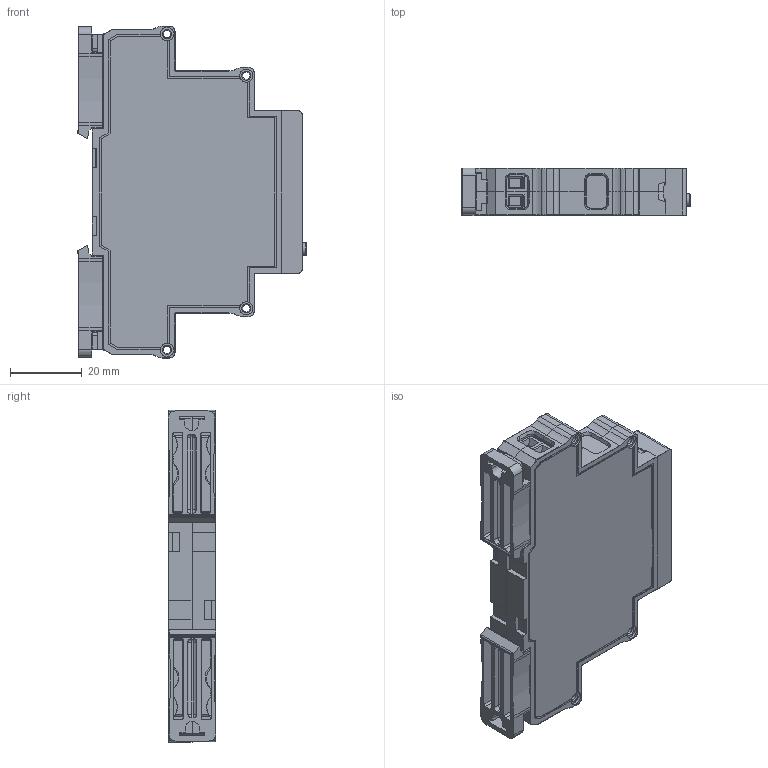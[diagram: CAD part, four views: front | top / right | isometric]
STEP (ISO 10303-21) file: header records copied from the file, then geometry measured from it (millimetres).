
FILE_DESCRIPTION(('STEP AP242'), '1');
FILE_NAME('Ñáîðêà_ÑÈÌ-05÷-13', '', ('UNSPECIFIED'), ('UNSPECIFIED'), 'C3D Converter', 'C3D Toolkit', '');
FILE_SCHEMA(('AP242_MANAGED_MODEL_BASED_3D_ENGINEERING_MIM_LF { 1 0 10303 442 1 1 4 }'));
Length unit declared in the file: millimetre
Products named in the file (15): Case_UC1-2sR-2024_SimpleModel_6mm; UC1-2sR-2024_Plug_13mm; Case13-18-23mm_2step_Lock_v01a_Build20140909_1552; Case_UC1-2sR-2025_Face_13mm
Assembly tree (20 placements, depth 3):
  (unnamed)
    Case_UC1-2sR-2024_SimpleModel_6mm  x2
    UC1-2sR-2024_Plug_13mm  x2
    Case13-18-23mm_2step_Lock_v01a_Build20140909_1552  x2
    Case_UC1-2sR-2025_Face_13mm
    (unnamed)  x2
      (unnamed)
    (unnamed)
    (unnamed)
    (unnamed)
    (unnamed)
    (unnamed)
    (unnamed)
    (unnamed)
    (unnamed)  x2
Bounding box: 63.73 x 13.2 x 92.4 mm (x, y, z)
Volume: 20871.6 mm3; surface area: 33988.7 mm2
Topology: 33 solids, 33 shells, 3428 faces, 9489 edges, 6123 vertices
Faces by surface type: plane 2574, cylinder 447, extrusion 154, torus 129, cone 56, bspline 36, sphere 32
Full cylindrical faces by diameter (mm): 1.238 x4, 2.1 x8, 3.5 x1, 3.7 x8, 3.9 x4, 4 x1, 4.4 x1
Entity records: 103047 total; most frequent: CARTESIAN_POINT 17435, ORIENTED_EDGE 14124, DIRECTION 12091, EDGE_CURVE 7062, VECTOR 6295, LINE 6141, VERTEX_POINT 4635, AXIS2_PLACEMENT_3D 2898
